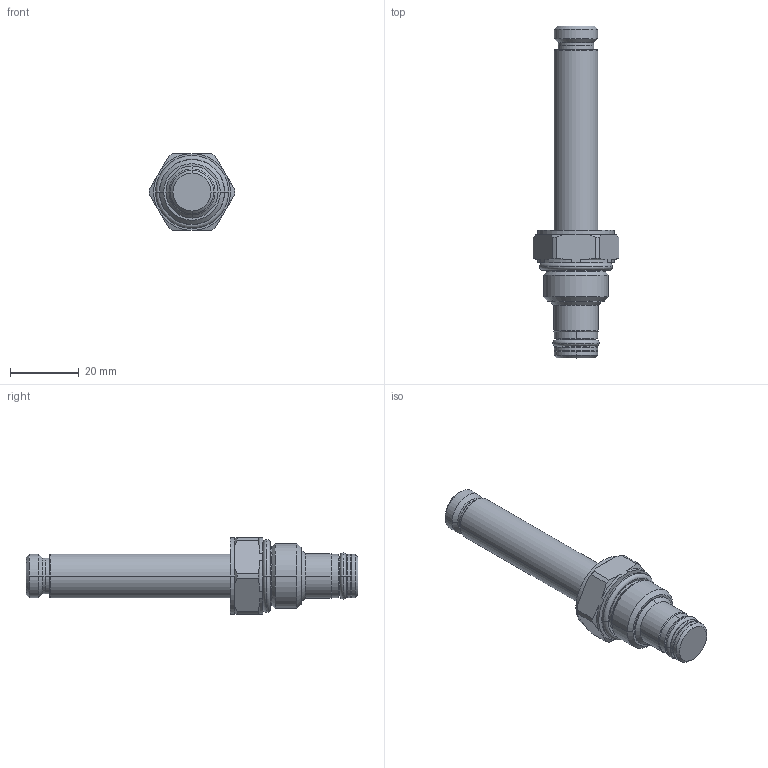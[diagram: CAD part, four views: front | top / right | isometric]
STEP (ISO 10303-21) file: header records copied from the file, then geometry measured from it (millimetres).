
FILE_DESCRIPTION((''),'2;1');
FILE_NAME('5003480_SW0001','2009-02-24T',('JCS'),(''),'PRO/ENGINEER BY PARAMETRIC TECHNOLOGY CORPORATION, 2008010','PRO/ENGINEER BY PARAMETRIC TECHNOLOGY CORPORATION, 2008010','');
FILE_SCHEMA(('CONFIG_CONTROL_DESIGN'));
Length unit declared in the file: inch
Products named in the file (1): 5003480_SW0001
Bounding box: 24.94 x 96.65 x 22.23 mm (x, y, z)
Volume: 16620.4 mm3; surface area: 6140.6 mm2
Topology: 4 solids, 4 shells, 122 faces, 272 edges, 160 vertices
Faces by surface type: cylinder 40, cone 36, plane 16, revolution 16, torus 14
Entity records: 3760 total; most frequent: CARTESIAN_POINT 980, DIRECTION 604, ORIENTED_EDGE 544, EDGE_CURVE 272, AXIS2_PLACEMENT_3D 250, VERTEX_POINT 160, CIRCLE 144, EDGE_LOOP 130
